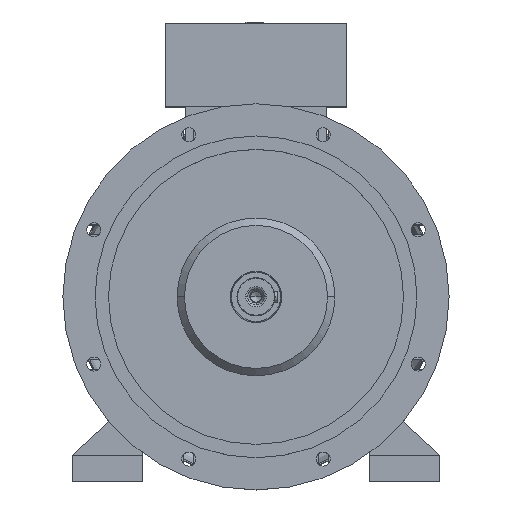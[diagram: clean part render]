
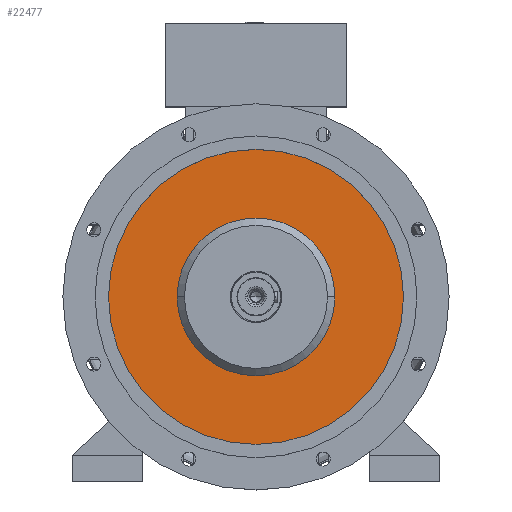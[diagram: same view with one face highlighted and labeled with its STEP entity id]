
A CAD part, top view. The second image highlights one B-rep face of the part: STEP entity #22477.
In plain terms, the highlighted planar face has unit normal (0, 0, 1).
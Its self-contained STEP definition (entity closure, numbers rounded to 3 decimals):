
#1142 = AXIS2_PLACEMENT_3D ( 'NONE', #18495, #24706, #20885 ) ;
#1605 = DIRECTION ( 'NONE',  ( -1., 0., 0. ) ) ;
#2670 = EDGE_LOOP ( 'NONE', ( #7124, #6875 ) ) ;
#3826 = CARTESIAN_POINT ( 'NONE',  ( 0., 0., 455.4 ) ) ;
#4273 = DIRECTION ( 'NONE',  ( 0., 0., -1. ) ) ;
#6035 = ORIENTED_EDGE ( 'NONE', *, *, #13091, .T. ) ;
#6154 = AXIS2_PLACEMENT_3D ( 'NONE', #3826, #27289, #18627 ) ;
#6435 = DIRECTION ( 'NONE',  ( -1., 0., 0. ) ) ;
#6875 = ORIENTED_EDGE ( 'NONE', *, *, #25638, .T. ) ;
#6945 = FACE_BOUND ( 'NONE', #2670, .T. ) ;
#7124 = ORIENTED_EDGE ( 'NONE', *, *, #20675, .T. ) ;
#7979 = AXIS2_PLACEMENT_3D ( 'NONE', #23810, #24549, #26616 ) ;
#9029 = PLANE ( 'NONE',  #7979 ) ;
#9712 = VERTEX_POINT ( 'NONE', #18813 ) ;
#12989 = EDGE_CURVE ( 'NONE', #24887, #21089, #19680, .T. ) ;
#13083 = CIRCLE ( 'NONE', #15711, 252.083 ) ;
#13091 = EDGE_CURVE ( 'NONE', #21089, #24887, #13083, .T. ) ;
#15537 = FACE_OUTER_BOUND ( 'NONE', #21644, .T. ) ;
#15711 = AXIS2_PLACEMENT_3D ( 'NONE', #18815, #20561, #1605 ) ;
#15882 = AXIS2_PLACEMENT_3D ( 'NONE', #18722, #4273, #6435 ) ;
#18341 = CARTESIAN_POINT ( 'NONE',  ( 252.083, 0., 455.4 ) ) ;
#18495 = CARTESIAN_POINT ( 'NONE',  ( 0., 0., 455.4 ) ) ;
#18627 = DIRECTION ( 'NONE',  ( -1., 0., 0. ) ) ;
#18722 = CARTESIAN_POINT ( 'NONE',  ( 0., 0., 455.4 ) ) ;
#18813 = CARTESIAN_POINT ( 'NONE',  ( 134.8, 0., 455.4 ) ) ;
#18815 = CARTESIAN_POINT ( 'NONE',  ( 0., 0., 455.4 ) ) ;
#19680 = CIRCLE ( 'NONE', #6154, 252.083 ) ;
#20561 = DIRECTION ( 'NONE',  ( 0., 0., 1. ) ) ;
#20587 = CIRCLE ( 'NONE', #1142, 134.8 ) ;
#20675 = EDGE_CURVE ( 'NONE', #22827, #9712, #20587, .T. ) ;
#20885 = DIRECTION ( 'NONE',  ( -1., 0., 0. ) ) ;
#21089 = VERTEX_POINT ( 'NONE', #18341 ) ;
#21644 = EDGE_LOOP ( 'NONE', ( #27124, #6035 ) ) ;
#22477 = ADVANCED_FACE ( 'NONE', ( #15537, #6945 ), #9029, .T. ) ;
#22827 = VERTEX_POINT ( 'NONE', #25491 ) ;
#23810 = CARTESIAN_POINT ( 'NONE',  ( 0., 252.083, 455.4 ) ) ;
#24234 = CARTESIAN_POINT ( 'NONE',  ( -252.083, 0., 455.4 ) ) ;
#24335 = CIRCLE ( 'NONE', #15882, 134.8 ) ;
#24549 = DIRECTION ( 'NONE',  ( 0., 0., 1. ) ) ;
#24706 = DIRECTION ( 'NONE',  ( 0., 0., -1. ) ) ;
#24887 = VERTEX_POINT ( 'NONE', #24234 ) ;
#25491 = CARTESIAN_POINT ( 'NONE',  ( -134.8, 0., 455.4 ) ) ;
#25638 = EDGE_CURVE ( 'NONE', #9712, #22827, #24335, .T. ) ;
#26616 = DIRECTION ( 'NONE',  ( 1., 0., 0. ) ) ;
#27124 = ORIENTED_EDGE ( 'NONE', *, *, #12989, .T. ) ;
#27289 = DIRECTION ( 'NONE',  ( 0., 0., 1. ) ) ;
